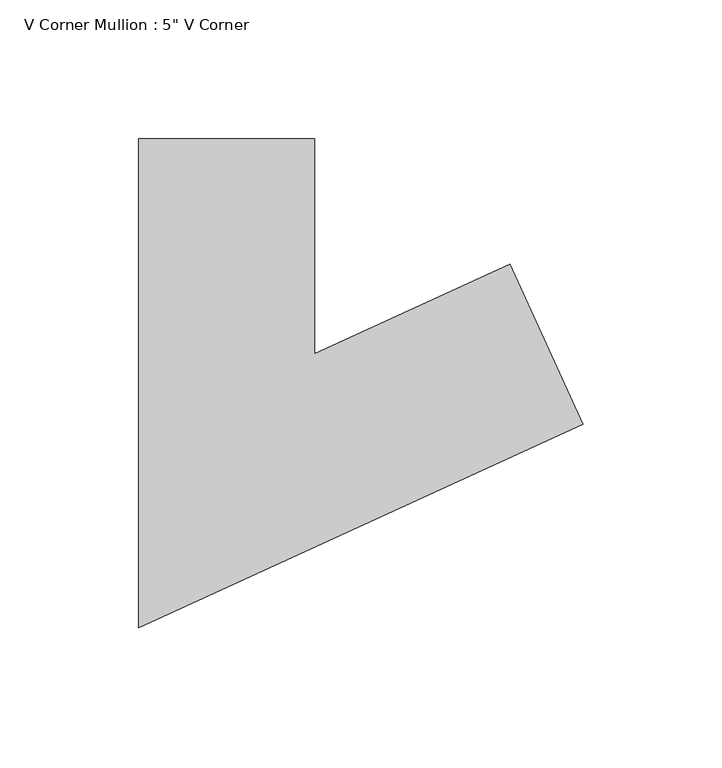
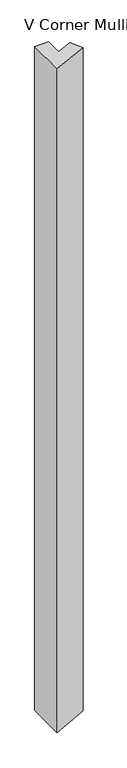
"""IFC4 building model written with IfcOpenShell, lengths in millimetres: member geometry."""

from ifc_helpers import new_model, si_unit, origin, place, context, project, spatial, faceted_brep, source, transform, mapped, element, save


def member_804b152c(model_context):
    return source(origin(), model_context, "Body", "Brep", [
        faceted_brep([(87.9205542, -39.5195451, 0.0), (61.49523, 18.2208415, 0.0), (-9.0228811, -14.0523047, 0.0), (-9.0228811, 63.5, 0.0), (-72.5228811, 63.5, 0.0), (-72.5228811, -112.9476953, 0.0), (87.9205542, -39.5195451, -3193.9837673), (61.49523, 18.2208415, -3194.5288361), (-9.0228811, -14.0523047, -3195.9833965), (-9.0228811, 63.5, -3195.9833965), (-72.5228811, 63.5, -3197.2931959), (-72.5228811, -112.9476953, -3197.2931959)], [[[0, 1, 2, 3, 4, 5]], [[1, 0, 6, 7]], [[2, 1, 7, 8]], [[3, 2, 8, 9]], [[4, 3, 9, 10]], [[5, 4, 10, 11]], [[0, 5, 11, 6]], [[6, 11, 10, 9, 8, 7]]]),
    ])


if __name__ == "__main__":
    model = new_model("IFC4")
    model_context = context("Model", 3, world=origin())
    ifc_project = project(units=[si_unit("LENGTHUNIT", "METRE", prefix="MILLI")], contexts=[model_context])
    site = spatial("IfcSite", under=ifc_project)
    building = spatial("IfcBuilding", under=site)
    placement = place(None, origin())
    member_shape = member_804b152c(model_context)
    element("IfcMember", 1, ObjectType="V Corner Mullion : 5\" V Corner", at=placement, inside=building, context=model_context, shape_type="MappedRepresentation", body=[
        mapped(member_shape, transform((0.0, 0.0, 0.0), x_axis=(1.0, 0.0, 0.0), y_axis=(0.0, 1.0, 0.0), z_axis=(0.0, 0.0, 1.0))),
    ])
    save(model, "model.ifc")
